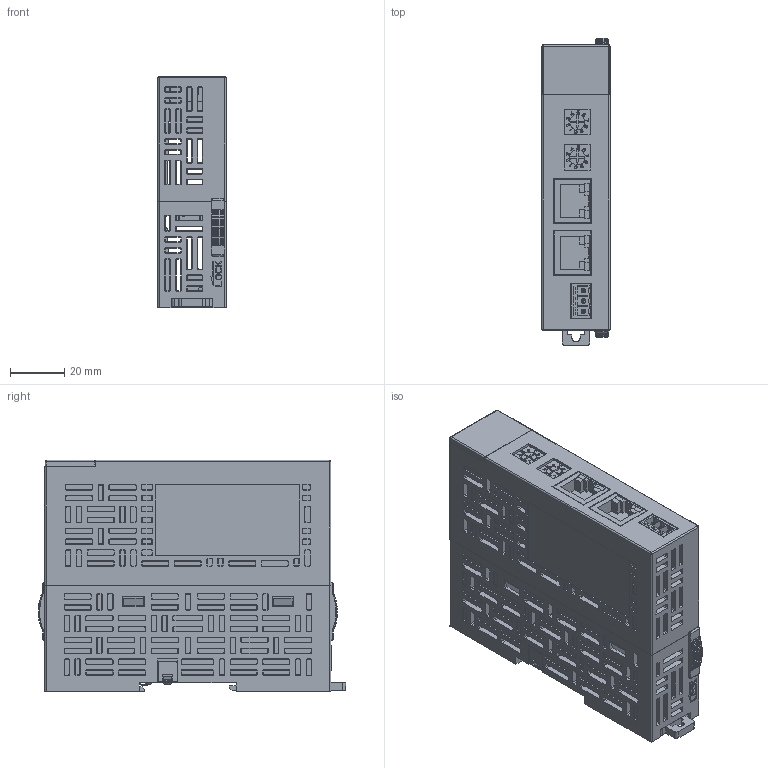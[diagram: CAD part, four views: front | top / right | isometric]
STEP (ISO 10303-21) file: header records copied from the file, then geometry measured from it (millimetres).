
FILE_DESCRIPTION((''),'2;1');
FILE_NAME('R1EC-A20_ASM','2022-03-29T11:45:12',('Lenovo'),(''),'CREO PARAMETRIC BY PTC INC, 2020033','CREO PARAMETRIC BY PTC INC, 2020033','');
FILE_SCHEMA(('CONFIG_CONTROL_DESIGN'));
Products named in the file (16): R1EC-A20-BASE; R1EC-A20-COVER; R1EC-A20-JINGPIAN; R1EC-A20-PCB-I; OQ381-RIGHT-ANGLE; RJ45-HR913550A; ERD10X10; LED-CE; JIEDIPIAN01-YKZ; 24PIN-CHAZUO-NEW; R1EC-A20-PCB-I_ASM; KAKOU-MK; JIEDIPIAN02-YKZ; MS2-32A4-XIAOGAIBAN; MS2-32A4-MKGDK; R1EC-A20_ASM
Assembly tree (21 placements, depth 3):
  R1EC-A20_ASM
    R1EC-A20-BASE
    R1EC-A20-COVER
    R1EC-A20-JINGPIAN
    R1EC-A20-PCB-I_ASM
      R1EC-A20-PCB-I
      OQ381-RIGHT-ANGLE
      RJ45-HR913550A  x2
      ERD10X10  x2
      LED-CE  x4
      JIEDIPIAN01-YKZ
      24PIN-CHAZUO-NEW
    KAKOU-MK
    JIEDIPIAN02-YKZ
    MS2-32A4-XIAOGAIBAN
    MS2-32A4-MKGDK  x2
Bounding box: 25 x 112.94 x 85 mm (x, y, z)
Volume: 70736.4 mm3; surface area: 86686.6 mm2
Topology: 20 solids, 20 shells, 5543 faces, 15368 edges, 10172 vertices
Faces by surface type: plane 4008, cone 1155, cylinder 316, extrusion 28, torus 20, bspline 14, sphere 2
Entity records: 154999 total; most frequent: CARTESIAN_POINT 30697, ORIENTED_EDGE 26540, DIRECTION 24242, EDGE_CURVE 13270, VECTOR 10350, LINE 10336, VERTEX_POINT 8780, AXIS2_PLACEMENT_3D 6946
